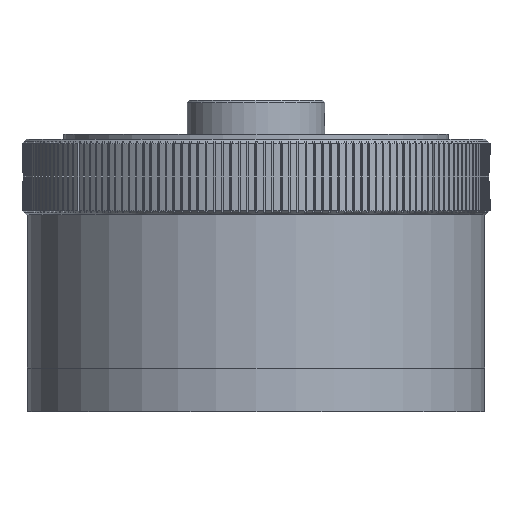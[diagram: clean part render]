
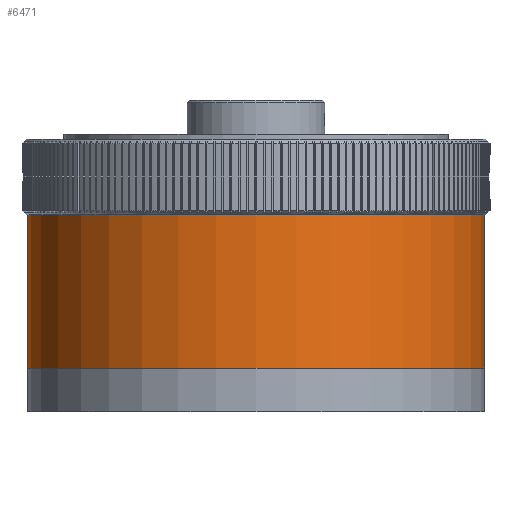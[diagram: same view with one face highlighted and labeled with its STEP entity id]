
A CAD part, front view. The second image highlights one B-rep face of the part: STEP entity #6471.
In plain terms, the highlighted cylindrical face has radius 58.039 mm (diameter 116.078 mm), a partial arc.
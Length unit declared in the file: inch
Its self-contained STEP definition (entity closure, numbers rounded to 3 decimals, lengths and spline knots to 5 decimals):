
#951 = CYLINDRICAL_SURFACE ( 'NONE', #8261, 2.285 ) ;
#1086 = DIRECTION ( 'NONE',  ( 0., 0., 1. ) ) ;
#2988 = ORIENTED_EDGE ( 'NONE', *, *, #38460, .T. ) ;
#3463 = AXIS2_PLACEMENT_3D ( 'NONE', #19488, #1086, #22604 ) ;
#4317 = VECTOR ( 'NONE', #16972, 39.37008 ) ;
#6471 = ADVANCED_FACE ( 'NONE', ( #17282 ), #951, .T. ) ;
#8261 = AXIS2_PLACEMENT_3D ( 'NONE', #17718, #8443, #36039 ) ;
#8443 = DIRECTION ( 'NONE',  ( 0., 0., 1. ) ) ;
#9692 = ORIENTED_EDGE ( 'NONE', *, *, #29724, .F. ) ;
#11016 = DIRECTION ( 'NONE',  ( 0., 0., 1. ) ) ;
#12927 = DIRECTION ( 'NONE',  ( 0., 0., 1. ) ) ;
#14044 = CARTESIAN_POINT ( 'NONE',  ( -2.285, 0., -1.14 ) ) ;
#16972 = DIRECTION ( 'NONE',  ( 0., 0., 1. ) ) ;
#17282 = FACE_OUTER_BOUND ( 'NONE', #28208, .T. ) ;
#17718 = CARTESIAN_POINT ( 'NONE',  ( 0., 0., 0. ) ) ;
#19330 = CARTESIAN_POINT ( 'NONE',  ( -2.285, 0., -2.675 ) ) ;
#19488 = CARTESIAN_POINT ( 'NONE',  ( 0., 0., -2.675 ) ) ;
#19874 = CARTESIAN_POINT ( 'NONE',  ( 2.285, 0., -2.675 ) ) ;
#21985 = AXIS2_PLACEMENT_3D ( 'NONE', #29502, #11016, #32584 ) ;
#22586 = VERTEX_POINT ( 'NONE', #19874 ) ;
#22604 = DIRECTION ( 'NONE',  ( 1., 0., 0. ) ) ;
#22631 = VECTOR ( 'NONE', #12927, 39.37008 ) ;
#24255 = ORIENTED_EDGE ( 'NONE', *, *, #38402, .T. ) ;
#25332 = CARTESIAN_POINT ( 'NONE',  ( 2.285, 0., 0. ) ) ;
#27957 = CIRCLE ( 'NONE', #3463, 2.285 ) ;
#28208 = EDGE_LOOP ( 'NONE', ( #9692, #2988, #24255, #38883 ) ) ;
#28595 = VERTEX_POINT ( 'NONE', #30731 ) ;
#28872 = LINE ( 'NONE', #35342, #4317 ) ;
#29502 = CARTESIAN_POINT ( 'NONE',  ( 0., 0., -1.14 ) ) ;
#29724 = EDGE_CURVE ( 'NONE', #33909, #39267, #28872, .T. ) ;
#30731 = CARTESIAN_POINT ( 'NONE',  ( 2.285, 0., -1.14 ) ) ;
#32584 = DIRECTION ( 'NONE',  ( 1., 0., 0. ) ) ;
#33197 = CIRCLE ( 'NONE', #21985, 2.285 ) ;
#33909 = VERTEX_POINT ( 'NONE', #19330 ) ;
#35342 = CARTESIAN_POINT ( 'NONE',  ( -2.285, 0., 0. ) ) ;
#36039 = DIRECTION ( 'NONE',  ( 1., 0., 0. ) ) ;
#38402 = EDGE_CURVE ( 'NONE', #22586, #28595, #38725, .T. ) ;
#38460 = EDGE_CURVE ( 'NONE', #33909, #22586, #27957, .T. ) ;
#38637 = EDGE_CURVE ( 'NONE', #39267, #28595, #33197, .T. ) ;
#38725 = LINE ( 'NONE', #25332, #22631 ) ;
#38883 = ORIENTED_EDGE ( 'NONE', *, *, #38637, .F. ) ;
#39267 = VERTEX_POINT ( 'NONE', #14044 ) ;
